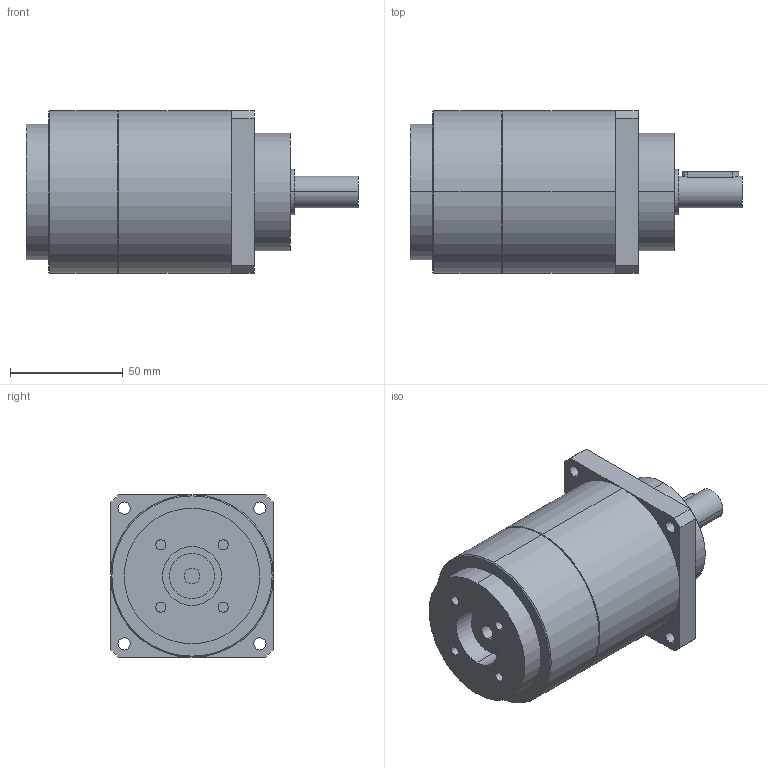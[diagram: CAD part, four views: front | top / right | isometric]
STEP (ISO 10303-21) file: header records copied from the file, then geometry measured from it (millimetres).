
FILE_DESCRIPTION(('CoCreate Modeling STEP Export'),'2;1');
FILE_NAME('GPT75_ig-9-12-16-20-25-28-35-40-50-70-100_14_B5T_7_P10.stp','2014-08-27T13:40:49',(''),(''),'CoCreate Modeling STEP processor for AP214 (Solid Model)','CoCreate Modeling 16.00C 25-Feb-2009 (C) Parametric Technology GmbH','');
FILE_SCHEMA(('AUTOMOTIVE_DESIGN { 1 0 10303 214 1 1 1 1 }'));
Length unit declared in the file: millimetre
Products named in the file (2): GPT75_ig-9-12-16-20-25-28-35-40-50-70-100_14_B5T_7_P10
Assembly tree (1 placements, depth 2):
  GPT75_ig-9-12-16-20-25-28-35-40-50-70-100_14_B5T_7_P10
    GPT75_ig-9-12-16-20-25-28-35-40-50-70-100_14_B5T_7_P10
Bounding box: 147 x 72 x 72 mm (x, y, z)
Volume: 441524.6 mm3; surface area: 40514.3 mm2
Topology: 1 solids, 1 shells, 72 faces, 164 edges, 107 vertices
Faces by surface type: cylinder 42, plane 26, cone 4
Entity records: 2171 total; most frequent: CARTESIAN_POINT 663, ORIENTED_EDGE 328, DIRECTION 268, EDGE_CURVE 164, VERTEX_POINT 107, AXIS2_PLACEMENT_3D 100, EDGE_LOOP 93, FACE_OUTER_BOUND 72
